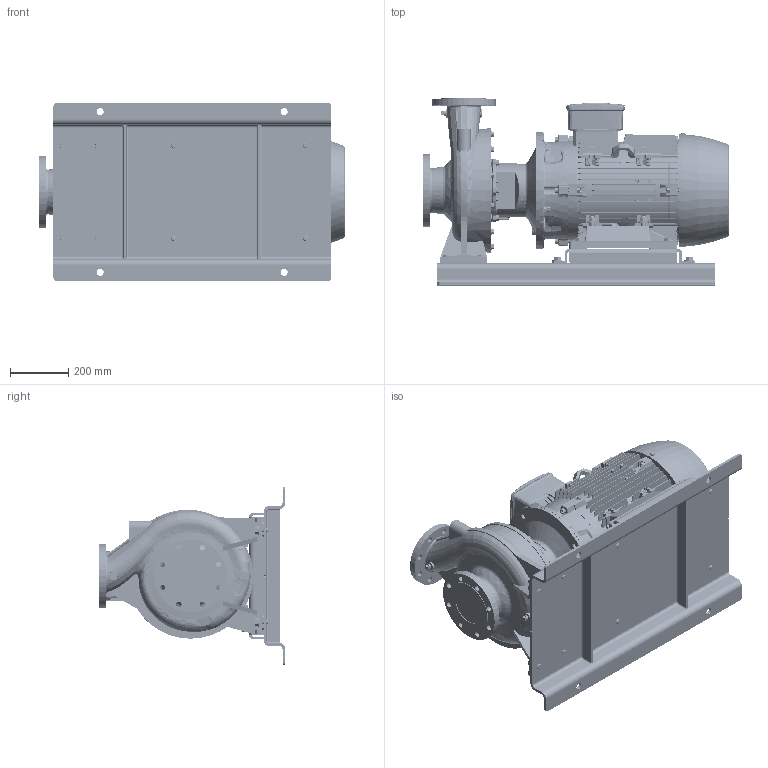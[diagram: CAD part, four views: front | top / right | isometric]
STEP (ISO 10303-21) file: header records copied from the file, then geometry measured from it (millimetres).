
FILE_DESCRIPTION (( 'STEP AP214' ), '1' );
FILE_NAME ('GSD4 100-315_30_(200ML)_W21.STEP', '2026-07-01T05:23:39', ( '' ), ( '' ), 'SwSTEP 2.0', 'SolidWorks 2024', '' );
FILE_SCHEMA (( 'AUTOMOTIVE_DESIGN' ));
Length unit declared in the file: millimetre
Products named in the file (12): Parametric Flat Washer_M16; CGS11-5272; 200M_L ALIE3_W21T_B35; N7S3 GSDA-737 F1-1832950-00; Parametric bolt_SFT-A351B; Parametric bolt and washer_SFT-A359B; Parametric bolt_SFT-A353B; Parametric bolt and washer_SFT-A353B; 100-315-200M_L_ﾃﾞﾌｫﾙﾄ; Parametric bolt_SFT-A359B; GSD4 100-315_30_(200ML)_W21; Parametric bolt and washer_SFT-A351B
Assembly tree (22 placements, depth 3):
  GSD4 100-315_30_(200ML)_W21
    100-315-200M_L_ﾃﾞﾌｫﾙﾄ
    N7S3 GSDA-737 F1-1832950-00
    CGS11-5272
    Parametric bolt and washer_SFT-A353B  x4
      Parametric bolt_SFT-A353B
      Parametric Flat Washer_M16
    Parametric bolt and washer_SFT-A351B  x4
      Parametric bolt_SFT-A351B
      Parametric Flat Washer_M16
    Parametric bolt and washer_SFT-A359B  x4
      Parametric bolt_SFT-A359B
      Parametric Flat Washer_M16
    200M_L ALIE3_W21T_B35
Bounding box: 1048.8 x 640 x 610 mm (x, y, z)
Volume: 101816116 mm3; surface area: 6387144.8 mm2
Topology: 56 solids, 66 shells, 7770 faces, 20051 edges, 12841 vertices
Faces by surface type: plane 4412, cylinder 1461, bspline 1038, cone 632, torus 223, sphere 4
Entity records: 318305 total; most frequent: CARTESIAN_POINT 154179, ORIENTED_EDGE 36654, DIRECTION 29575, EDGE_CURVE 18327, VERTEX_POINT 11794, VECTOR 11123, LINE 11123, AXIS2_PLACEMENT_3D 9226
